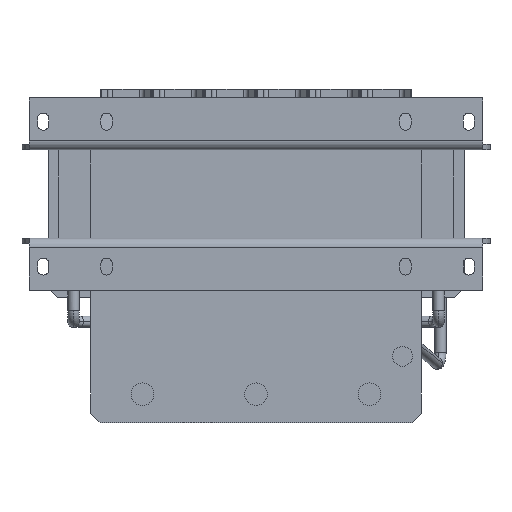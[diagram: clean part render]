
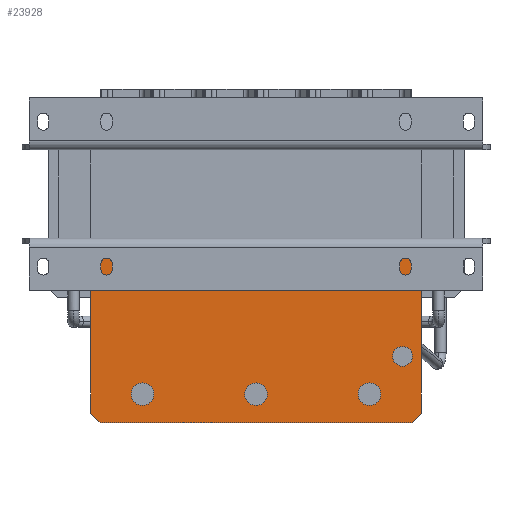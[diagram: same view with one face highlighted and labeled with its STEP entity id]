
A CAD part, front view. The second image highlights one B-rep face of the part: STEP entity #23928.
In plain terms, the highlighted planar face has unit normal (0, -1, 0).
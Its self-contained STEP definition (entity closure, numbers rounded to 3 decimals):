
#301 = CARTESIAN_POINT ( 'NONE',  ( 165., 63., -241.65 ) ) ;
#427 = CARTESIAN_POINT ( 'NONE',  ( 155., 63., -171.65 ) ) ;
#447 = DIRECTION ( 'NONE',  ( 0., -1., 0. ) ) ;
#662 = VERTEX_POINT ( 'NONE', #4916 ) ;
#815 = AXIS2_PLACEMENT_3D ( 'NONE', #12692, #9352, #22114 ) ;
#1118 = AXIS2_PLACEMENT_3D ( 'NONE', #3457, #30116, #15640 ) ;
#1282 = CARTESIAN_POINT ( 'NONE',  ( 120., 63., -223.65 ) ) ;
#2395 = EDGE_LOOP ( 'NONE', ( #23522, #13606 ) ) ;
#2399 = CIRCLE ( 'NONE', #30600, 12. ) ;
#2458 = EDGE_CURVE ( 'NONE', #23129, #18221, #32958, .T. ) ;
#2832 = EDGE_CURVE ( 'NONE', #662, #27227, #13930, .T. ) ;
#2861 = AXIS2_PLACEMENT_3D ( 'NONE', #15304, #7010, #7210 ) ;
#3139 = EDGE_CURVE ( 'NONE', #27227, #34697, #37606, .T. ) ;
#3159 = ORIENTED_EDGE ( 'NONE', *, *, #38819, .F. ) ;
#3307 = FACE_OUTER_BOUND ( 'NONE', #6853, .T. ) ;
#3424 = EDGE_CURVE ( 'NONE', #26752, #21945, #27442, .T. ) ;
#3450 = DIRECTION ( 'NONE',  ( 0., 0., -1. ) ) ;
#3457 = CARTESIAN_POINT ( 'NONE',  ( 0., 63., -211.65 ) ) ;
#3889 = CARTESIAN_POINT ( 'NONE',  ( 165., 63., -241.65 ) ) ;
#4916 = CARTESIAN_POINT ( 'NONE',  ( 175., 63., -231.65 ) ) ;
#5002 = VERTEX_POINT ( 'NONE', #32057 ) ;
#6115 = DIRECTION ( 'NONE',  ( 0., 0., 1. ) ) ;
#6136 = DIRECTION ( 'NONE',  ( 0., 0., 1. ) ) ;
#6307 = DIRECTION ( 'NONE',  ( 0., 1., 0. ) ) ;
#6853 = EDGE_LOOP ( 'NONE', ( #10722, #19312, #11301, #27218, #16750, #24412 ) ) ;
#7010 = DIRECTION ( 'NONE',  ( 0., 1., 0. ) ) ;
#7210 = DIRECTION ( 'NONE',  ( 0., 0., 1. ) ) ;
#7390 = VERTEX_POINT ( 'NONE', #14658 ) ;
#8361 = VERTEX_POINT ( 'NONE', #37834 ) ;
#8447 = DIRECTION ( 'NONE',  ( -1., 0., 0. ) ) ;
#9352 = DIRECTION ( 'NONE',  ( 0., -1., 0. ) ) ;
#9444 = CARTESIAN_POINT ( 'NONE',  ( 155., 63., -182.15 ) ) ;
#10722 = ORIENTED_EDGE ( 'NONE', *, *, #2832, .T. ) ;
#11167 = DIRECTION ( 'NONE',  ( 0., 0., 1. ) ) ;
#11301 = ORIENTED_EDGE ( 'NONE', *, *, #19394, .T. ) ;
#11538 = DIRECTION ( 'NONE',  ( 0., -1., 0. ) ) ;
#11766 = AXIS2_PLACEMENT_3D ( 'NONE', #17595, #447, #6136 ) ;
#11791 = ORIENTED_EDGE ( 'NONE', *, *, #32578, .F. ) ;
#12009 = EDGE_LOOP ( 'NONE', ( #38557, #31259 ) ) ;
#12370 = VECTOR ( 'NONE', #28011, 1000. ) ;
#12529 = CARTESIAN_POINT ( 'NONE',  ( -175., 63., -61.65 ) ) ;
#12692 = CARTESIAN_POINT ( 'NONE',  ( 120., 63., -211.65 ) ) ;
#12736 = CARTESIAN_POINT ( 'NONE',  ( 0., 63., -199.65 ) ) ;
#12923 = LINE ( 'NONE', #3889, #13766 ) ;
#13606 = ORIENTED_EDGE ( 'NONE', *, *, #13845, .T. ) ;
#13766 = VECTOR ( 'NONE', #21960, 1000. ) ;
#13845 = EDGE_CURVE ( 'NONE', #33786, #22719, #31454, .T. ) ;
#13910 = VECTOR ( 'NONE', #3450, 1000. ) ;
#13930 = LINE ( 'NONE', #25892, #27384 ) ;
#14166 = CARTESIAN_POINT ( 'NONE',  ( 175., 63., -241.65 ) ) ;
#14658 = CARTESIAN_POINT ( 'NONE',  ( 120., 63., -199.65 ) ) ;
#15304 = CARTESIAN_POINT ( 'NONE',  ( 175., 63., -51.65 ) ) ;
#15640 = DIRECTION ( 'NONE',  ( 0., 0., 1. ) ) ;
#15770 = EDGE_CURVE ( 'NONE', #21945, #26752, #18898, .T. ) ;
#16750 = ORIENTED_EDGE ( 'NONE', *, *, #2458, .F. ) ;
#16980 = EDGE_CURVE ( 'NONE', #22719, #33786, #17021, .T. ) ;
#17021 = CIRCLE ( 'NONE', #22626, 10.5 ) ;
#17081 = DIRECTION ( 'NONE',  ( 0., 0., 1. ) ) ;
#17136 = CIRCLE ( 'NONE', #815, 12. ) ;
#17595 = CARTESIAN_POINT ( 'NONE',  ( -120., 63., -211.65 ) ) ;
#18221 = VERTEX_POINT ( 'NONE', #38131 ) ;
#18270 = FACE_BOUND ( 'NONE', #20453, .T. ) ;
#18409 = LINE ( 'NONE', #30322, #13910 ) ;
#18703 = CIRCLE ( 'NONE', #11766, 12. ) ;
#18898 = CIRCLE ( 'NONE', #20843, 12. ) ;
#19312 = ORIENTED_EDGE ( 'NONE', *, *, #3139, .T. ) ;
#19394 = EDGE_CURVE ( 'NONE', #34697, #8361, #18409, .T. ) ;
#20453 = EDGE_LOOP ( 'NONE', ( #34200, #3159 ) ) ;
#20665 = DIRECTION ( 'NONE',  ( 0., 1., 0. ) ) ;
#20843 = AXIS2_PLACEMENT_3D ( 'NONE', #38025, #11538, #17081 ) ;
#21945 = VERTEX_POINT ( 'NONE', #12736 ) ;
#21960 = DIRECTION ( 'NONE',  ( 0.707, 0., 0.707 ) ) ;
#22114 = DIRECTION ( 'NONE',  ( 0., 0., 1. ) ) ;
#22626 = AXIS2_PLACEMENT_3D ( 'NONE', #427, #6307, #6115 ) ;
#22668 = CARTESIAN_POINT ( 'NONE',  ( 155., 63., -161.15 ) ) ;
#22719 = VERTEX_POINT ( 'NONE', #9444 ) ;
#23129 = VERTEX_POINT ( 'NONE', #301 ) ;
#23203 = CARTESIAN_POINT ( 'NONE',  ( 155., 63., -171.65 ) ) ;
#23235 = AXIS2_PLACEMENT_3D ( 'NONE', #33834, #24435, #28142 ) ;
#23522 = ORIENTED_EDGE ( 'NONE', *, *, #16980, .T. ) ;
#23804 = DIRECTION ( 'NONE',  ( 0., -1., 0. ) ) ;
#23928 = ADVANCED_FACE ( 'NONE', ( #33117, #32924, #27623, #18270, #3307 ), #30176, .F. ) ;
#23959 = EDGE_CURVE ( 'NONE', #8361, #18221, #28018, .T. ) ;
#24412 = ORIENTED_EDGE ( 'NONE', *, *, #35524, .T. ) ;
#24435 = DIRECTION ( 'NONE',  ( 0., -1., 0. ) ) ;
#24494 = EDGE_CURVE ( 'NONE', #5002, #34212, #18703, .T. ) ;
#25650 = CARTESIAN_POINT ( 'NONE',  ( 175., 63., -61.65 ) ) ;
#25892 = CARTESIAN_POINT ( 'NONE',  ( 175., 63., -231.65 ) ) ;
#26324 = DIRECTION ( 'NONE',  ( 0., 0., 1. ) ) ;
#26752 = VERTEX_POINT ( 'NONE', #28593 ) ;
#26867 = EDGE_CURVE ( 'NONE', #7390, #28120, #30103, .T. ) ;
#27218 = ORIENTED_EDGE ( 'NONE', *, *, #23959, .T. ) ;
#27227 = VERTEX_POINT ( 'NONE', #27320 ) ;
#27320 = CARTESIAN_POINT ( 'NONE',  ( 175., 63., -61.65 ) ) ;
#27384 = VECTOR ( 'NONE', #11167, 1000. ) ;
#27442 = CIRCLE ( 'NONE', #1118, 12. ) ;
#27623 = FACE_BOUND ( 'NONE', #12009, .T. ) ;
#28011 = DIRECTION ( 'NONE',  ( -1., 0., 0. ) ) ;
#28018 = LINE ( 'NONE', #30767, #35435 ) ;
#28120 = VERTEX_POINT ( 'NONE', #1282 ) ;
#28142 = DIRECTION ( 'NONE',  ( 0., 0., 1. ) ) ;
#28593 = CARTESIAN_POINT ( 'NONE',  ( 0., 63., -223.65 ) ) ;
#29262 = CARTESIAN_POINT ( 'NONE',  ( -120., 63., -223.65 ) ) ;
#29300 = DIRECTION ( 'NONE',  ( 0., 0., 1. ) ) ;
#30103 = CIRCLE ( 'NONE', #23235, 12. ) ;
#30116 = DIRECTION ( 'NONE',  ( 0., -1., 0. ) ) ;
#30176 = PLANE ( 'NONE',  #2861 ) ;
#30322 = CARTESIAN_POINT ( 'NONE',  ( -175., 63., -231.65 ) ) ;
#30600 = AXIS2_PLACEMENT_3D ( 'NONE', #35183, #23804, #29300 ) ;
#30767 = CARTESIAN_POINT ( 'NONE',  ( -175., 63., -231.65 ) ) ;
#31232 = EDGE_LOOP ( 'NONE', ( #33568, #11791 ) ) ;
#31259 = ORIENTED_EDGE ( 'NONE', *, *, #3424, .F. ) ;
#31454 = CIRCLE ( 'NONE', #32708, 10.5 ) ;
#31753 = VECTOR ( 'NONE', #8447, 1000. ) ;
#32057 = CARTESIAN_POINT ( 'NONE',  ( -120., 63., -199.65 ) ) ;
#32578 = EDGE_CURVE ( 'NONE', #34212, #5002, #2399, .T. ) ;
#32708 = AXIS2_PLACEMENT_3D ( 'NONE', #23203, #20665, #26324 ) ;
#32924 = FACE_BOUND ( 'NONE', #31232, .T. ) ;
#32958 = LINE ( 'NONE', #14166, #31753 ) ;
#33117 = FACE_BOUND ( 'NONE', #2395, .T. ) ;
#33568 = ORIENTED_EDGE ( 'NONE', *, *, #24494, .F. ) ;
#33786 = VERTEX_POINT ( 'NONE', #22668 ) ;
#33834 = CARTESIAN_POINT ( 'NONE',  ( 120., 63., -211.65 ) ) ;
#33897 = DIRECTION ( 'NONE',  ( 0.707, 0., -0.707 ) ) ;
#34200 = ORIENTED_EDGE ( 'NONE', *, *, #26867, .F. ) ;
#34212 = VERTEX_POINT ( 'NONE', #29262 ) ;
#34697 = VERTEX_POINT ( 'NONE', #12529 ) ;
#35183 = CARTESIAN_POINT ( 'NONE',  ( -120., 63., -211.65 ) ) ;
#35435 = VECTOR ( 'NONE', #33897, 1000. ) ;
#35524 = EDGE_CURVE ( 'NONE', #23129, #662, #12923, .T. ) ;
#37606 = LINE ( 'NONE', #25650, #12370 ) ;
#37834 = CARTESIAN_POINT ( 'NONE',  ( -175., 63., -231.65 ) ) ;
#38025 = CARTESIAN_POINT ( 'NONE',  ( 0., 63., -211.65 ) ) ;
#38131 = CARTESIAN_POINT ( 'NONE',  ( -165., 63., -241.65 ) ) ;
#38557 = ORIENTED_EDGE ( 'NONE', *, *, #15770, .F. ) ;
#38819 = EDGE_CURVE ( 'NONE', #28120, #7390, #17136, .T. ) ;
